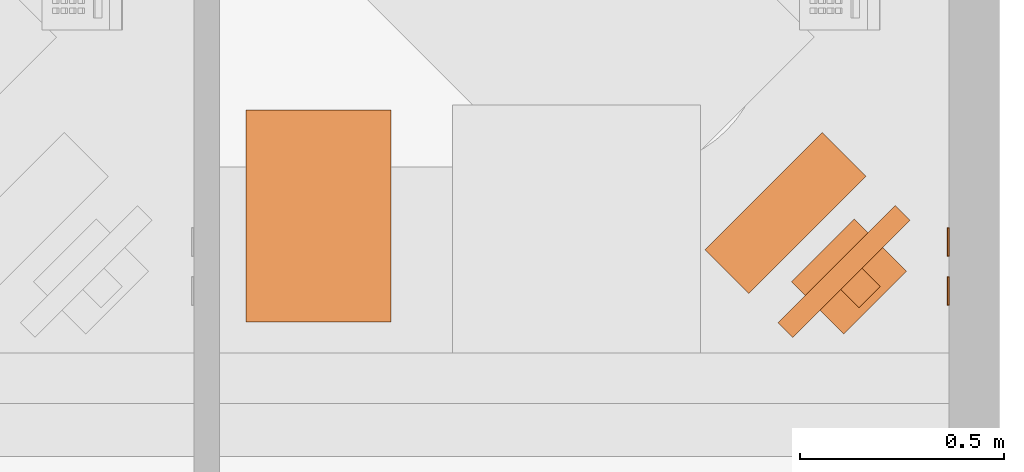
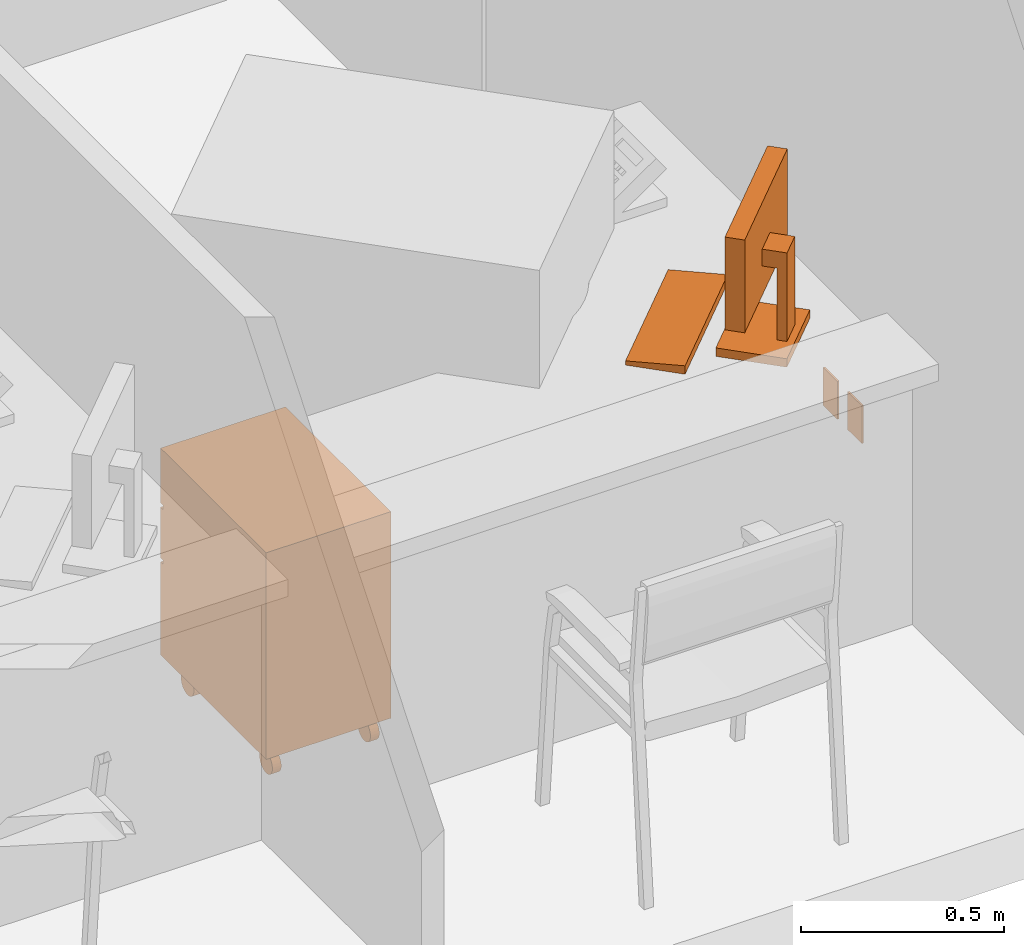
# One storey, part 15 of 20: 4 proxies.
"""IFC2X3 building model written with IfcOpenShell, lengths in feet."""

from ifc_helpers import new_model, entity, si_unit, converted_unit, derived_unit, direction, frame, frame_2d, origin, origin_2d_with_axis, place, context, subcontext, project, spatial, polyline, circle_curve, parameter, trimmed, segment, composite_curve, rectangle, outline, extrude, faceted_brep, source, transform, mapped, type_object, type_shapes, element, save


model = new_model("IFC2X3")

# Units and contexts
model_context = context("Model", 3, precision=0.0001, world=origin(), true_north=direction((6.12303176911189e-17, 1.0)))
body_context = subcontext(model_context, "Body", "Model", "MODEL_VIEW")
ifc_project = project(units=[converted_unit("LENGTHUNIT", "FOOT", entity("IfcRatioMeasure", 0.3048), si_unit("LENGTHUNIT", "METRE"), dimensions=[1, 0, 0, 0, 0, 0, 0]), converted_unit("AREAUNIT", "SQUARE FOOT", entity("IfcRatioMeasure", 0.09290304), si_unit("AREAUNIT", "SQUARE_METRE"), dimensions=[2, 0, 0, 0, 0, 0, 0]), converted_unit("VOLUMEUNIT", "CUBIC FOOT", entity("IfcRatioMeasure", 0.028316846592), si_unit("VOLUMEUNIT", "CUBIC_METRE"), dimensions=[3, 0, 0, 0, 0, 0, 0]), converted_unit("PLANEANGLEUNIT", "DEGREE", entity("IfcRatioMeasure", 0.0174532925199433), si_unit("PLANEANGLEUNIT", "RADIAN"), dimensions=[0, 0, 0, 0, 0, 0, 0]), si_unit("MASSUNIT", "GRAM", prefix="KILO"), derived_unit("MASSDENSITYUNIT", [(si_unit("MASSUNIT", "GRAM", prefix="KILO"), 1), (si_unit("LENGTHUNIT", "METRE"), -3)]), si_unit("TIMEUNIT", "SECOND"), si_unit("FREQUENCYUNIT", "HERTZ"), si_unit("THERMODYNAMICTEMPERATUREUNIT", "DEGREE_CELSIUS"), derived_unit("THERMALTRANSMITTANCEUNIT", [(si_unit("MASSUNIT", "GRAM", prefix="KILO"), 1), (si_unit("THERMODYNAMICTEMPERATUREUNIT", "KELVIN"), -1), (si_unit("TIMEUNIT", "SECOND"), -3)]), derived_unit("VOLUMETRICFLOWRATEUNIT", [(si_unit("LENGTHUNIT", "METRE"), 3), (si_unit("TIMEUNIT", "SECOND"), -1)]), si_unit("ELECTRICCURRENTUNIT", "AMPERE"), si_unit("ELECTRICVOLTAGEUNIT", "VOLT"), si_unit("POWERUNIT", "WATT"), si_unit("FORCEUNIT", "NEWTON"), si_unit("ILLUMINANCEUNIT", "LUX"), si_unit("LUMINOUSFLUXUNIT", "LUMEN"), si_unit("LUMINOUSINTENSITYUNIT", "CANDELA"), derived_unit("USERDEFINED", [(si_unit("MASSUNIT", "GRAM", prefix="KILO"), -1), (si_unit("LENGTHUNIT", "METRE"), -2), (si_unit("TIMEUNIT", "SECOND"), 3), (si_unit("LUMINOUSFLUXUNIT", "LUMEN"), 1)]), derived_unit("LINEARVELOCITYUNIT", [(si_unit("LENGTHUNIT", "METRE"), 1), (si_unit("TIMEUNIT", "SECOND"), -1)]), si_unit("PRESSUREUNIT", "PASCAL"), derived_unit("USERDEFINED", [(si_unit("LENGTHUNIT", "METRE"), -2), (si_unit("MASSUNIT", "GRAM", prefix="KILO"), 1), (si_unit("TIMEUNIT", "SECOND"), -2)])], contexts=[model_context])

# Site, building, storey, space
site_placement = place(None, origin())
site = spatial("IfcSite", under=ifc_project, at=site_placement, Name="Default", CompositionType="ELEMENT")
building_placement = place(site_placement, origin())
building = spatial("IfcBuilding", under=site, at=building_placement, Name="OUTPATIENT / PACT CLINIC (Ch. 265)", CompositionType="ELEMENT")
storey_placement = place(building_placement, origin())
storey = spatial("IfcBuildingStorey", under=building, at=storey_placement, Name="DATUM", CompositionType="ELEMENT", Elevation=0.0)
space_placement = place(storey_placement, origin())
space = spatial("IfcSpace", under=storey, at=space_placement, Name="RCP03", CompositionType="ELEMENT", InteriorOrExteriorSpace="INTERNAL")

# Proxies
building_element_proxy_type_1 = type_object("IfcBuildingElementProxyType", Name="M1801 - Computer with Flat Panel Monitor", PredefinedType="NOTDEFINED")
shared_shape_1 = source(origin(), body_context, "Body", "Brep", [
    faceted_brep([(0.666666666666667, -0.5625, 0.0), (0.666666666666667, -0.0624999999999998, 0.0), (0.666666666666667, -0.0624999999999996, 0.0833333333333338), (0.666666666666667, -0.5625, 0.0416666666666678), (-0.666666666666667, -0.5625, 0.0), (-0.666666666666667, -0.5625, 0.0416666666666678), (-0.666666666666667, -0.0624999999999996, 0.0833333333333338), (-0.666666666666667, -0.0624999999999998, 0.0)], [[[0, 1, 2, 3]], [[4, 5, 6, 7]], [[1, 0, 4, 7]], [[2, 1, 7, 6]], [[3, 2, 6, 5]], [[0, 3, 5, 4]]]),
    faceted_brep([(0.666666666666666, 0.437223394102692, 1.41666666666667), (-0.666666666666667, 0.437223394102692, 1.41666666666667), (-0.666666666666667, 0.271109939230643, 1.41666666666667), (0.666666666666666, 0.271109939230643, 1.41666666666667), (0.666666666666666, 0.437223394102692, 0.500000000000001), (0.666666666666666, 0.271109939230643, 0.500000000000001), (-0.666666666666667, 0.271109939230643, 0.500000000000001), (-0.666666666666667, 0.437223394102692, 0.500000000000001), (-0.625, 0.271109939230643, 1.375), (0.625, 0.271109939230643, 1.375), (0.625, 0.271109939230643, 0.541666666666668), (-0.625, 0.271109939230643, 0.541666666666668), (0.625, 0.286812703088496, 1.375), (-0.625, 0.286812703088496, 1.375), (0.625, 0.286812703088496, 0.541666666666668), (-0.625, 0.286812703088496, 0.541666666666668)], [[[0, 1, 2, 3]], [[4, 5, 6, 7]], [[1, 0, 4, 7]], [[2, 1, 7, 6]], [[3, 2, 6, 5], [8, 9, 10, 11]], [[0, 3, 5, 4]], [[12, 9, 8, 13]], [[14, 15, 11, 10]], [[12, 13, 15, 14]], [[13, 8, 11, 15]], [[9, 12, 14, 10]]]),
    faceted_brep([(0.358011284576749, 0.111770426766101, 0.0833333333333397), (0.358011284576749, 0.111770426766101, 0.0), (0.358011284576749, 0.708333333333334, 0.0), (0.358011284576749, 0.708333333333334, 0.0833333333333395), (-0.358011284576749, 0.708333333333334, 0.0833333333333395), (-0.358011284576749, 0.708333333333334, 0.0), (-0.358011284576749, 0.111770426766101, 0.0), (-0.358011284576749, 0.111770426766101, 0.0833333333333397), (0.12128795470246, 0.645556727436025, 0.104166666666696), (0.12128795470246, 0.645556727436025, 0.0833333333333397), (-0.12128795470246, 0.645556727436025, 0.0833333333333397), (-0.12128795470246, 0.645556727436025, 0.104166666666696), (0.12128795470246, 0.645556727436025, 0.958333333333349), (-0.12128795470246, 0.645556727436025, 0.958333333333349), (0.12128795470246, 0.437223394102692, 0.958333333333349), (-0.12128795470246, 0.437223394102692, 0.958333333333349), (0.12128795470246, 0.437223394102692, 0.791666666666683), (-0.12128795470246, 0.437223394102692, 0.791666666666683), (0.12128795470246, 0.562223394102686, 0.791666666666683), (-0.12128795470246, 0.562223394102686, 0.791666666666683), (0.12128795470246, 0.562223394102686, 0.0833333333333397), (-0.12128795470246, 0.562223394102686, 0.0833333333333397)], [[[0, 1, 2, 3]], [[4, 5, 6, 7]], [[8, 9, 10, 11]], [[12, 8, 11, 13]], [[14, 12, 13, 15]], [[16, 14, 15, 17]], [[18, 16, 17, 19]], [[20, 18, 19, 21]], [[0, 3, 4, 7], [9, 20, 21, 10]], [[1, 0, 7, 6]], [[2, 1, 6, 5]], [[3, 2, 5, 4]], [[20, 9, 8, 12, 14, 16, 18]], [[10, 21, 19, 17, 15, 13, 11]]]),
])
type_shapes(building_element_proxy_type_1, [shared_shape_1])
proxy_1_placement = place(space_placement, frame((73.1676666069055, -864.01781695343, 2.49999999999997), z_axis=(0.0, 0.0, 1.0), x_axis=(-0.707106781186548, -0.707106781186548, 0.0)))
element("IfcBuildingElementProxy", 1, at=proxy_1_placement, inside=space, type_object=building_element_proxy_type_1, Name="M1801 - Computer with Flat Panel Monitor:M1801 - Computer with Flat Panel Monitor", ObjectType="M1801 - Computer with Flat Panel Monitor", context=body_context, shape_type="MappedRepresentation", body=[
    mapped(shared_shape_1, transform((0.0, 0.0, 0.0), scale=1.0)),
])
building_element_proxy_type_2 = type_object("IfcBuildingElementProxyType", Name="Duplex", PredefinedType="NOTDEFINED")
shared_shape_2 = source(origin(), body_context, "Body", "SweptSolid", [
    extrude(rectangle(XDim=0.229166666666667, YDim=0.0156249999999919, at=origin_2d_with_axis()), frame((0.0, -0.210937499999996, 0.0), z_axis=(0.0, 0.0, 1.0), x_axis=(-1.0, 0.0, 0.0)), (0.0, 0.0, 1.0), 0.37500000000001),
])
type_shapes(building_element_proxy_type_2, [shared_shape_2])
proxy_2_placement = place(space_placement, frame((74.4672384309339, -864.424839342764, 1.3125), z_axis=(0.0, 0.0, 1.0), x_axis=(0.0, -1.0, 0.0)))
element("IfcBuildingElementProxy", 2, at=proxy_2_placement, inside=space, type_object=building_element_proxy_type_2, Name="Outlet, Duplex, Wall:Duplex", ObjectType="Duplex", context=body_context, shape_type="MappedRepresentation", body=[
    mapped(shared_shape_2, transform((0.0, 0.0, 0.0), scale=1.0)),
])
building_element_proxy_type_3 = type_object("IfcBuildingElementProxyType", Name="Telephone/Data", PredefinedType="NOTDEFINED")
shared_shape_3 = source(origin(), body_context, "Body", "SweptSolid", [
    extrude(rectangle(XDim=0.229166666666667, YDim=0.0156249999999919, at=origin_2d_with_axis()), frame((0.0, -0.210937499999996, 0.0), z_axis=(0.0, 0.0, 1.0), x_axis=(-1.0, 0.0, 0.0)), (0.0, 0.0, 1.0), 0.375),
])
type_shapes(building_element_proxy_type_3, [shared_shape_3])
proxy_3_placement = place(space_placement, frame((74.4672384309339, -864.02900600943, 1.3125), z_axis=(0.0, 0.0, 1.0), x_axis=(0.0, -1.0, 0.0)))
element("IfcBuildingElementProxy", 3, at=proxy_3_placement, inside=space, type_object=building_element_proxy_type_3, Name="Outlet, Communications:Telephone/Data", ObjectType="Telephone/Data", context=body_context, shape_type="MappedRepresentation", body=[
    mapped(shared_shape_3, transform((0.0, 0.0, 0.0), scale=1.0)),
])
building_element_proxy_type_4 = type_object("IfcBuildingElementProxyType", Name="F0404 - Pedestal File Mobile", PredefinedType="NOTDEFINED")
shared_shape_4 = source(origin(), body_context, "Body", "SweptSolid", [
    extrude(outline(polyline([(-0.583333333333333, -0.458333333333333), (0.583333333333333, -0.458333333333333), (0.583333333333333, 0.458333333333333), (-0.583333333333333, 0.458333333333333), (-0.583333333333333, -0.458333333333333)]), holes=[polyline([(0.33333333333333, 0.3125), (-0.333333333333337, 0.3125), (-0.333333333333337, 0.375), (0.33333333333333, 0.375), (0.33333333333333, 0.3125)])]), frame((0.0, -1.70833333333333, 0.708333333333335), z_axis=(0.0, 1.0, 0.0), x_axis=(-1.0, 0.0, 0.0)), (0.0, 0.0, 1.0), 0.0416666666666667),
    extrude(outline(polyline([(-0.583333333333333, -0.25), (0.583333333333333, -0.25), (0.583333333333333, 0.25), (-0.583333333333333, 0.25), (-0.583333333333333, -0.25)]), holes=[polyline([(0.333333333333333, 0.104166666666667), (-0.333333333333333, 0.104166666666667), (-0.333333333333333, 0.166666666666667), (0.333333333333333, 0.166666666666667), (0.333333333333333, 0.104166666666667)])]), frame((0.0, -1.70833333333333, 2.0), z_axis=(0.0, 1.0, 0.0), x_axis=(-1.0, 0.0, 0.0)), (0.0, 0.0, 1.0), 0.0416666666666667),
    extrude(outline(polyline([(-0.583333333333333, -0.25), (0.583333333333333, -0.25), (0.583333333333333, 0.25), (-0.583333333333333, 0.25), (-0.583333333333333, -0.25)]), holes=[polyline([(0.333333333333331, 0.104166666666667), (-0.333333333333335, 0.104166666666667), (-0.333333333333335, 0.166666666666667), (0.333333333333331, 0.166666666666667), (0.333333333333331, 0.104166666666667)])]), frame((0.0, -1.70833333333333, 1.45833333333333), z_axis=(0.0, 1.0, 0.0), x_axis=(-1.0, 0.0, 0.0)), (0.0, 0.0, 1.0), 0.0416666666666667),
    extrude(outline(polyline([(-0.541666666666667, -1.34722222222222), (1.125, -1.34722222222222), (1.125, 0.69444444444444), (-0.583333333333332, 0.694444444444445), (-0.583333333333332, 0.652777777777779), (-0.541666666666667, 0.652777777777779), (-0.541666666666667, -1.34722222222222)])), frame((-0.583333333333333, -1.125, 1.59722222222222), z_axis=(1.0, 0.0, 0.0), x_axis=(0.0, 1.0, 0.0)), (0.0, 0.0, 1.0), 1.16666666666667),
    extrude(outline(composite_curve([segment(polyline([(0.00520833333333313, -0.0520833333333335), (0.0468749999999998, -0.0520833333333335)]), True, "CONTINUOUS"), segment(polyline([(0.0468749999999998, -0.0520833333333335), (0.046875, 0.0520833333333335)]), True, "CONTINUOUS"), segment(polyline([(0.046875, 0.0520833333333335), (-0.0989583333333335, 0.0520833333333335)]), True, "CONTINUOUS"), segment(trimmed(circle_curve(frame_2d((-0.0989583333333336, -0.0520833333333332), x_axis=(0.0, 1.0)), 0.104166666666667), [parameter(360.0)], [parameter(270.0)], True, "PARAMETER"), True, "CONTINUOUS")], self_intersect=False)), frame((0.416666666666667, -0.197916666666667, 0.203125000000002), z_axis=(1.0, 0.0, 0.0), x_axis=(0.0, 0.0, 1.0)), (0.0, 0.0, 1.0), 0.0833333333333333),
    extrude(outline(composite_curve([segment(polyline([(0.00520833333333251, -0.052083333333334), (0.0468749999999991, -0.052083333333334)]), True, "CONTINUOUS"), segment(polyline([(0.0468749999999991, -0.052083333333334), (0.0468750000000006, 0.0520833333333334)]), True, "CONTINUOUS"), segment(polyline([(0.0468750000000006, 0.0520833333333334), (-0.0989583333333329, 0.052083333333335)]), True, "CONTINUOUS"), segment(trimmed(circle_curve(frame_2d((-0.0989583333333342, -0.0520833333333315), x_axis=(0.0, 1.0)), 0.104166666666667), [parameter(360.0)], [parameter(269.999999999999)], True, "PARAMETER"), True, "CONTINUOUS")], self_intersect=False)), frame((0.416666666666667, -1.46875, 0.203125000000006), z_axis=(1.0, 0.0, 0.0), x_axis=(0.0, 0.0, 1.0)), (0.0, 0.0, 1.0), 0.0833333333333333),
    extrude(outline(composite_curve([segment(polyline([(0.00520833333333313, -0.0520833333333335), (0.0468749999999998, -0.0520833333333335)]), True, "CONTINUOUS"), segment(polyline([(0.0468749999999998, -0.0520833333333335), (0.046875, 0.0520833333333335)]), True, "CONTINUOUS"), segment(polyline([(0.046875, 0.0520833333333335), (-0.0989583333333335, 0.0520833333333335)]), True, "CONTINUOUS"), segment(trimmed(circle_curve(frame_2d((-0.0989583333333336, -0.0520833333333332), x_axis=(0.0, 1.0)), 0.104166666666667), [parameter(360.0)], [parameter(270.0)], True, "PARAMETER"), True, "CONTINUOUS")], self_intersect=False)), frame((-0.5, -0.197916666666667, 0.203125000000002), z_axis=(1.0, 0.0, 0.0), x_axis=(0.0, 0.0, 1.0)), (0.0, 0.0, 1.0), 0.0833333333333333),
    extrude(outline(composite_curve([segment(polyline([(0.00520833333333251, -0.052083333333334), (0.0468749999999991, -0.052083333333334)]), True, "CONTINUOUS"), segment(polyline([(0.0468749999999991, -0.052083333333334), (0.0468750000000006, 0.0520833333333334)]), True, "CONTINUOUS"), segment(polyline([(0.0468750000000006, 0.0520833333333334), (-0.0989583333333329, 0.052083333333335)]), True, "CONTINUOUS"), segment(trimmed(circle_curve(frame_2d((-0.0989583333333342, -0.0520833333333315), x_axis=(0.0, 1.0)), 0.104166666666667), [parameter(360.0)], [parameter(269.999999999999)], True, "PARAMETER"), True, "CONTINUOUS")], self_intersect=False)), frame((-0.5, -1.46875, 0.203125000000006), z_axis=(1.0, 0.0, 0.0), x_axis=(0.0, 0.0, 1.0)), (0.0, 0.0, 1.0), 0.0833333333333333),
])
type_shapes(building_element_proxy_type_4, [shared_shape_4])
proxy_4_placement = place(space_placement, frame((69.1859884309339, -864.674839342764, 0.0), z_axis=(0.0, 0.0, 1.0), x_axis=(-1.0, 0.0, 0.0)))
element("IfcBuildingElementProxy", 4, at=proxy_4_placement, inside=space, type_object=building_element_proxy_type_4, Name="F0404 - Pedestal File Mobile:F0404 - Pedestal File Mobile", ObjectType="F0404 - Pedestal File Mobile", context=body_context, shape_type="MappedRepresentation", body=[
    mapped(shared_shape_4, transform((0.0, 0.0, 0.0), scale=1.0)),
])

save(model, "model.ifc")
